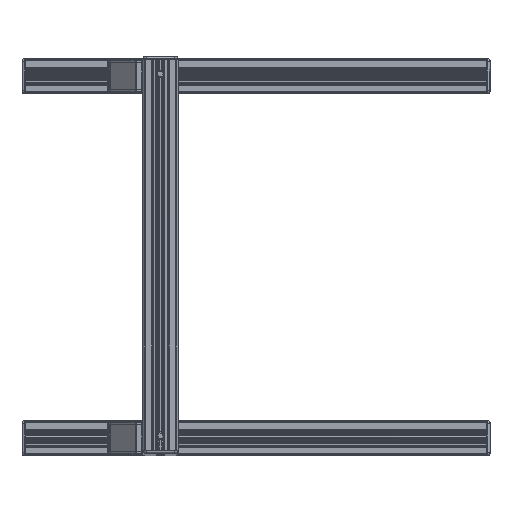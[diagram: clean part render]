
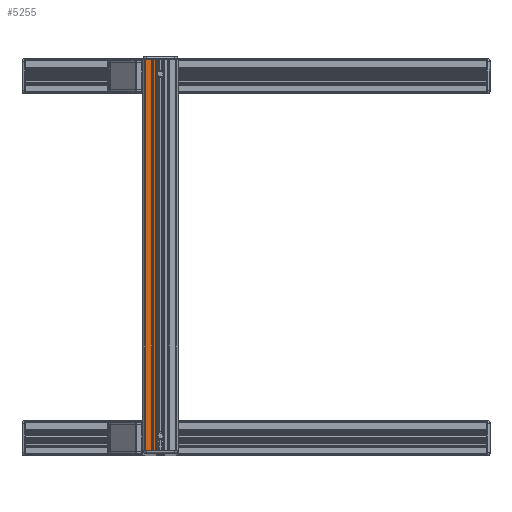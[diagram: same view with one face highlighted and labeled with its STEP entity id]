
A CAD part, top view. The second image highlights one B-rep face of the part: STEP entity #5255.
In plain terms, the highlighted planar face has unit normal (0, 0, 1).
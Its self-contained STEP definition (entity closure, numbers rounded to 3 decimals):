
#5255=ADVANCED_FACE('',(#9601),#9602,.F.);
#9601=FACE_OUTER_BOUND('',#14238,.T.);
#9602=PLANE('',#14239);
#14238=EDGE_LOOP('',(#26525,#26526,#26527,#26528));
#14239=AXIS2_PLACEMENT_3D('',#26529,#26530,#26531);
#26525=ORIENTED_EDGE('',*,*,#34349,.F.);
#26526=ORIENTED_EDGE('',*,*,#34350,.T.);
#26527=ORIENTED_EDGE('',*,*,#34351,.F.);
#26528=ORIENTED_EDGE('',*,*,#34346,.F.);
#26529=CARTESIAN_POINT('',(-136.65,50000.0,1752.0));
#26530=DIRECTION('',(0.,0.,-1.0));
#26531=DIRECTION('',(-1.0,0.,0.));
#34346=EDGE_CURVE('',#42445,#42447,#42448,.T.);
#34349=EDGE_CURVE('',#42451,#42445,#42452,.T.);
#34350=EDGE_CURVE('',#42451,#42453,#42454,.T.);
#34351=EDGE_CURVE('',#42447,#42453,#42455,.T.);
#42445=VERTEX_POINT('',#54844);
#42447=VERTEX_POINT('',#54847);
#42448=LINE('',#54848,#54849);
#42451=VERTEX_POINT('',#54853);
#42452=LINE('',#54854,#54855);
#42453=VERTEX_POINT('',#54856);
#42454=LINE('',#54857,#54858);
#42455=LINE('',#54859,#54860);
#54844=CARTESIAN_POINT('',(-128.3,250.5,1752.0));
#54847=CARTESIAN_POINT('',(-128.3,-250.5,1752.0));
#54848=CARTESIAN_POINT('',(-128.3,50000.0,1752.0));
#54849=VECTOR('',#62818,1.0);
#54853=CARTESIAN_POINT('',(-142.0,250.5,1752.0));
#54854=CARTESIAN_POINT('',(-136.65,250.5,1752.0));
#54855=VECTOR('',#62820,1.0);
#54856=CARTESIAN_POINT('',(-142.0,-250.5,1752.0));
#54857=CARTESIAN_POINT('',(-142.,50000.0,1752.0));
#54858=VECTOR('',#62821,1.0);
#54859=CARTESIAN_POINT('',(-136.65,-250.5,1752.0));
#54860=VECTOR('',#62822,1.0);
#62818=DIRECTION('',(0.,-1.0,0.0));
#62820=DIRECTION('',(1.0,0.,0.));
#62821=DIRECTION('',(0.,-1.0,0.0));
#62822=DIRECTION('',(-1.0,0.,0.));
